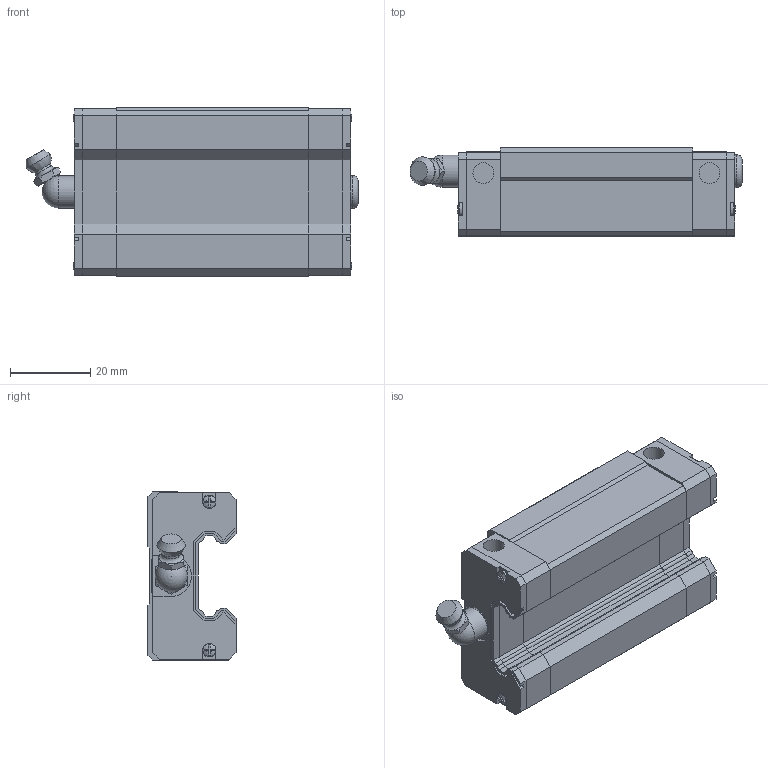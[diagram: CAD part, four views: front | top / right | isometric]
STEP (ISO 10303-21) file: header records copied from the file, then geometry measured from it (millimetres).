
FILE_DESCRIPTION(('FreeCAD Model'),'2;1');
FILE_NAME('Open CASCADE Shape Model','2024-12-05T10:37:00',('Author'),( ''),'Open CASCADE STEP processor 7.6','FreeCAD','Unknown');
FILE_SCHEMA(('AUTOMOTIVE_DESIGN { 1 0 10303 214 1 1 1 1 }'));
Length unit declared in the file: millimetre
Products named in the file (12): EH20CA; _GEH20CA_slider001; _GEC20_C004; _GEC20_P004; _GH20_SCREW012; _GH20_SCREW013; _GH20_BOLT003; _GEC20_C005; _GEC20_P005; _GH20_SCREW014; _GH20_SCREW015; _GH20-_G003
Assembly tree (11 placements, depth 2):
  EH20CA
    _GEH20CA_slider001
    _GEC20_C004
    _GEC20_P004
    _GH20_SCREW012
    _GH20_SCREW013
    _GH20_BOLT003
    _GEC20_C005
    _GEC20_P005
    _GH20_SCREW014
    _GH20_SCREW015
    _GH20-_G003
Bounding box: 82.9 x 22 x 42 mm (x, y, z)
Volume: 49192.5 mm3; surface area: 19113.4 mm2
Topology: 11 solids, 11 shells, 385 faces, 1016 edges, 667 vertices
Faces by surface type: plane 302, cylinder 51, cone 20, torus 6, sphere 5, bspline 1
Full cylindrical faces by diameter (mm): 2.3 x4, 3.414 x4, 4.134 x4, 4.5 x1, 5.2 x4, 6 x2, 6.5 x2, 7.2 x2, 8 x1, 8.2 x1
Entity records: 12179 total; most frequent: CARTESIAN_POINT 2316, ORIENTED_EDGE 2030, DIRECTION 1914, EDGE_CURVE 1015, LINE 758, VECTOR 758, VERTEX_POINT 667, AXIS2_PLACEMENT_3D 578
